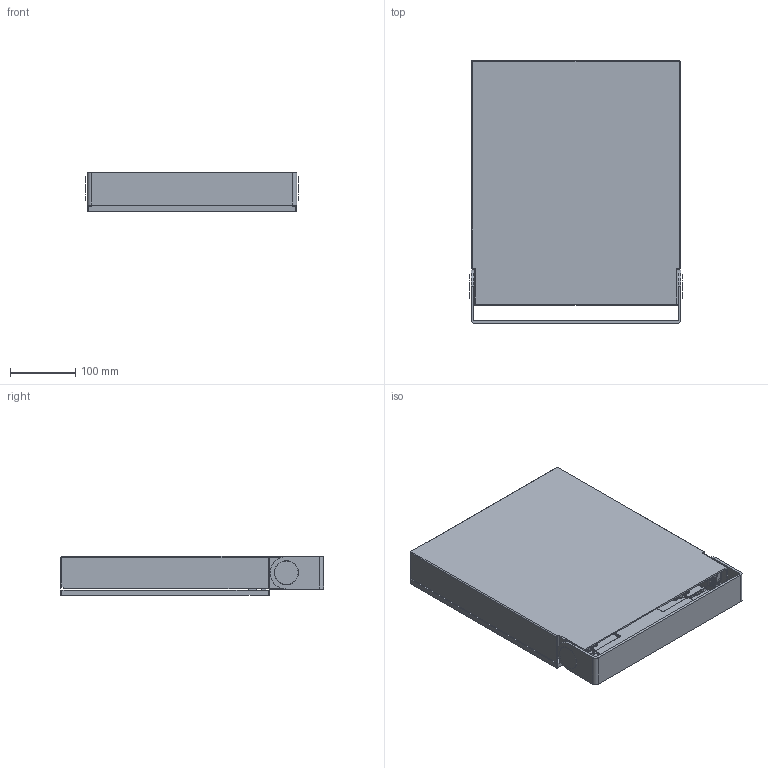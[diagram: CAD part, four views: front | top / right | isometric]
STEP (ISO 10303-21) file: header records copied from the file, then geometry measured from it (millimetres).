
FILE_DESCRIPTION((''),'2;1');
FILE_NAME('CIRC_SW0001','2025-07-31T09:00:47',('Piccioli'),(''),'CREO PARAMETRIC BY PTC INC, 2025010','CREO PARAMETRIC BY PTC INC, 2025010','');
FILE_SCHEMA(('CONFIG_CONTROL_DESIGN'));
Length unit declared in the file: millimetre
Products named in the file (1): CIRC_SW0001
Bounding box: 326.5 x 403.5 x 60 mm (x, y, z)
Surface area: 451005.2 mm2 (no closed solid volume)
Topology: 0 solids, 91 shells, 231 faces, 1323 edges, 1181 vertices
Faces by surface type: plane 129, cylinder 67, cone 16, bspline 15, torus 4
Entity records: 20823 total; most frequent: CARTESIAN_POINT 11947, ORIENTED_EDGE 1504, DIRECTION 1486, EDGE_CURVE 1323, VERTEX_POINT 1181, VECTOR 714, LINE 714, B_SPLINE_CURVE_WITH_KNOTS 439
